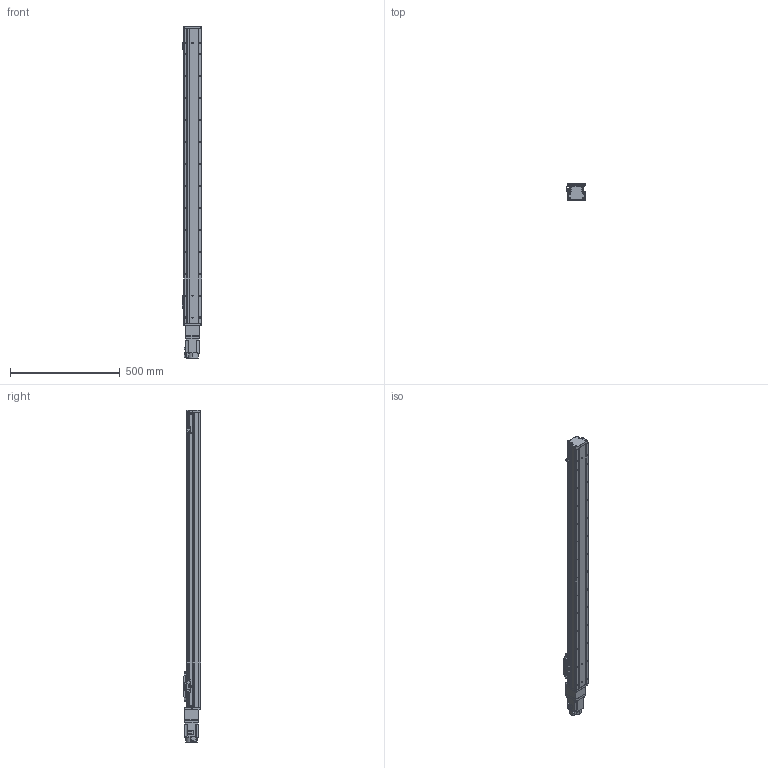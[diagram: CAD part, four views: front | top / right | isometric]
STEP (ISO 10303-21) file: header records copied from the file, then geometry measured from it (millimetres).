
FILE_DESCRIPTION (( 'STEP AP203' ), '1' );
FILE_NAME ('GTH8-1150-BC-M20-C4.step', '2023-08-28T00:53:30', ( '微软用户' ), ( '微软中国' ), 'SwSTEP 2.0', 'SolidWorks 2020', '' );
FILE_SCHEMA (( 'CONFIG_CONTROL_DESIGN' ));
Length unit declared in the file: millimetre
Products named in the file (19): GTH80-022; BTH-M3X5X6; GTH80-001_1150; GBT 70.1-M3℅6; CTHA86-006-1_CTHA86-006-2; GTH80-003; GBT 70.1-M4×16; CTHA86-013; GTH80-004; GTH80-028; CTHA86-027; GTH80-006; GTH50-024; 三菱伺服电机[HG-KN23J-S100]; GTH80-013; GTH50-023; GTH8-1150-BC-M20-C4; GBT 70.3-M3℅6; GBT96.1-2002 3×0.8
Assembly tree (60 placements, depth 2):
  GTH8-1150-BC-M20-C4
    GTH80-001_1150
    GTH80-003
    GTH80-004
    GTH80-006
    GTH80-013
    GBT 70.3-M3℅6  x6
    GTH80-022
    GBT 70.1-M3℅6  x14
    GBT 70.1-M4×16  x8
    GTH80-028  x2
    GTH50-024  x3
    GTH50-023  x3
    GBT96.1-2002 3×0.8  x6
    BTH-M3X5X6  x8
    CTHA86-006-1_CTHA86-006-2
    CTHA86-013
    CTHA86-027
    三菱伺服电机[HG-KN23J-S100]
Bounding box: 86.9 x 78 x 1511 mm (x, y, z)
Volume: 6537266.4 mm3; surface area: 626882.7 mm2
Topology: 62 solids, 62 shells, 2203 faces, 5114 edges, 3125 vertices
Faces by surface type: plane 1137, cylinder 617, cone 285, torus 154, sphere 8, bspline 2
Entity records: 40237 total; most frequent: CARTESIAN_POINT 8513, DIRECTION 6013, ORIENTED_EDGE 5818, EDGE_CURVE 2909, AXIS2_PLACEMENT_3D 2077, LINE 1859, VECTOR 1859, VERTEX_POINT 1838
